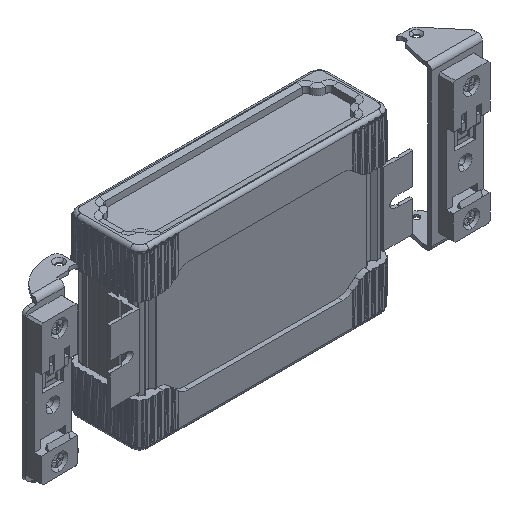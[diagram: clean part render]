
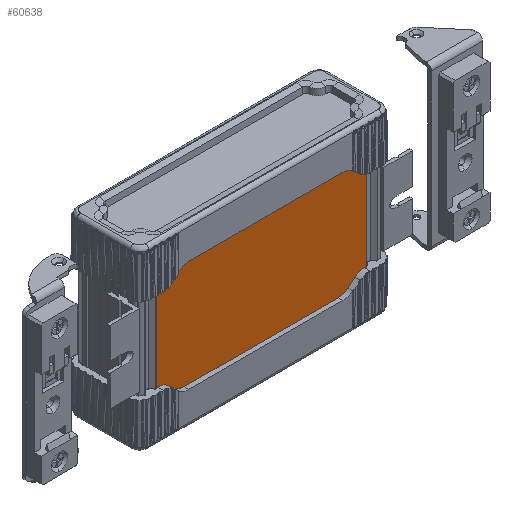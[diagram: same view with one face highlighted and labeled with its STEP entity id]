
A CAD part, isometric view. The second image highlights one B-rep face of the part: STEP entity #60638.
In plain terms, the highlighted planar face has unit normal (0, -1, 0).
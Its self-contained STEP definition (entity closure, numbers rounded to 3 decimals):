
#1342 = VERTEX_POINT ( 'NONE', #30309 ) ;
#3664 = VECTOR ( 'NONE', #17547, 1000. ) ;
#4754 = CARTESIAN_POINT ( 'NONE',  ( -57.459, -17.5, 40.25 ) ) ;
#6531 = FACE_OUTER_BOUND ( 'NONE', #50486, .T. ) ;
#8799 = EDGE_CURVE ( 'NONE', #12601, #1342, #54107, .T. ) ;
#9115 = ORIENTED_EDGE ( 'NONE', *, *, #17934, .F. ) ;
#9853 = ORIENTED_EDGE ( 'NONE', *, *, #28752, .T. ) ;
#10919 = CARTESIAN_POINT ( 'NONE',  ( 57.459, -17.5, -40.25 ) ) ;
#12406 = VERTEX_POINT ( 'NONE', #26866 ) ;
#12601 = VERTEX_POINT ( 'NONE', #14549 ) ;
#14549 = CARTESIAN_POINT ( 'NONE',  ( -57.459, -17.5, 40.25 ) ) ;
#17547 = DIRECTION ( 'NONE',  ( 0., 0., -1. ) ) ;
#17795 = VECTOR ( 'NONE', #51172, 1000. ) ;
#17934 = EDGE_CURVE ( 'NONE', #12406, #65488, #27650, .T. ) ;
#18047 = DIRECTION ( 'NONE',  ( 0., 0., -1. ) ) ;
#18151 = LINE ( 'NONE', #34734, #25351 ) ;
#22576 = CARTESIAN_POINT ( 'NONE',  ( 57.459, -17.5, 40.25 ) ) ;
#23425 = DIRECTION ( 'NONE',  ( -1., 0., 0. ) ) ;
#25351 = VECTOR ( 'NONE', #40178, 1000. ) ;
#26866 = CARTESIAN_POINT ( 'NONE',  ( 57.459, -17.5, 40.25 ) ) ;
#27650 = LINE ( 'NONE', #22576, #3664 ) ;
#28172 = DIRECTION ( 'NONE',  ( 0., 1., 0. ) ) ;
#28752 = EDGE_CURVE ( 'NONE', #1342, #65488, #39695, .T. ) ;
#29873 = ORIENTED_EDGE ( 'NONE', *, *, #66172, .F. ) ;
#30309 = CARTESIAN_POINT ( 'NONE',  ( -57.459, -17.5, -40.25 ) ) ;
#34734 = CARTESIAN_POINT ( 'NONE',  ( 57.459, -17.5, 40.25 ) ) ;
#39340 = CARTESIAN_POINT ( 'NONE',  ( 57.459, -17.5, -40.25 ) ) ;
#39695 = LINE ( 'NONE', #39340, #17795 ) ;
#40178 = DIRECTION ( 'NONE',  ( 1., 0., 0. ) ) ;
#48380 = ORIENTED_EDGE ( 'NONE', *, *, #8799, .T. ) ;
#50486 = EDGE_LOOP ( 'NONE', ( #9853, #9115, #29873, #48380 ) ) ;
#51172 = DIRECTION ( 'NONE',  ( 1., 0., 0. ) ) ;
#51196 = CARTESIAN_POINT ( 'NONE',  ( 57.459, -17.5, 40.25 ) ) ;
#54107 = LINE ( 'NONE', #4754, #68294 ) ;
#55181 = PLANE ( 'NONE',  #55461 ) ;
#55461 = AXIS2_PLACEMENT_3D ( 'NONE', #51196, #28172, #23425 ) ;
#60638 = ADVANCED_FACE ( 'NONE', ( #6531 ), #55181, .F. ) ;
#65488 = VERTEX_POINT ( 'NONE', #10919 ) ;
#66172 = EDGE_CURVE ( 'NONE', #12601, #12406, #18151, .T. ) ;
#68294 = VECTOR ( 'NONE', #18047, 1000. ) ;
